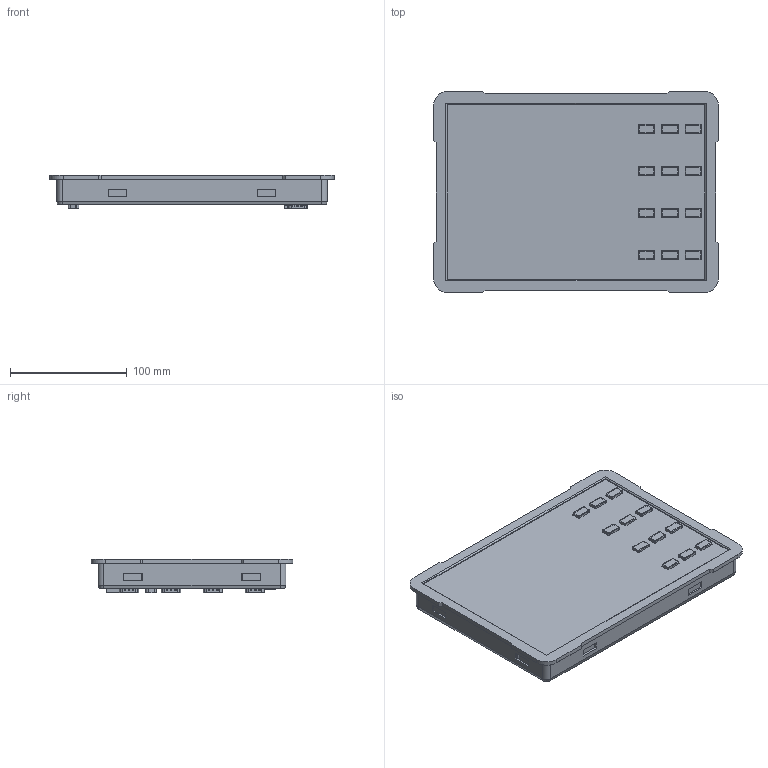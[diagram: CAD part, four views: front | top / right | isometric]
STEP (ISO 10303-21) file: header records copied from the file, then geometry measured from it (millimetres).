
FILE_DESCRIPTION(/* description */ (''),/* implementation_level */ '2;1');
FILE_NAME(/* name */ 'PREDVADECI PANELOVA.step',/* time_stamp */ '2023-11-14T16:45:40+01:00',/* author */ (''),/* organization */ (''),/* preprocessor_version */ 'ST-DEVELOPER v20',/* originating_system */ 'Autodesk Translation Framework v12.14.0.127',/* authorisation */ '');
FILE_SCHEMA (('AUTOMOTIVE_DESIGN { 1 0 10303 214 3 1 1 }'));
Products named in the file (1): PREDVADECI PANELOVA
Bounding box: 243.6 x 172.6 x 29.07 mm (x, y, z)
Volume: 817643.4 mm3; surface area: 155454.1 mm2
Topology: 1 solids, 13 shells, 3512 faces, 8990 edges, 5671 vertices
Faces by surface type: plane 1169, cylinder 1118, bspline 777, torus 297, sphere 139, cone 12
Full cylindrical faces by diameter (mm): 0.84 x45, 1.04 x45, 1.14 x45, 2.2 x19
Entity records: 155215 total; most frequent: CARTESIAN_POINT 74686, ORIENTED_EDGE 17740, DIRECTION 15285, EDGE_CURVE 8870, VERTEX_POINT 5671, AXIS2_PLACEMENT_3D 5577, LINE 4131, VECTOR 4131
